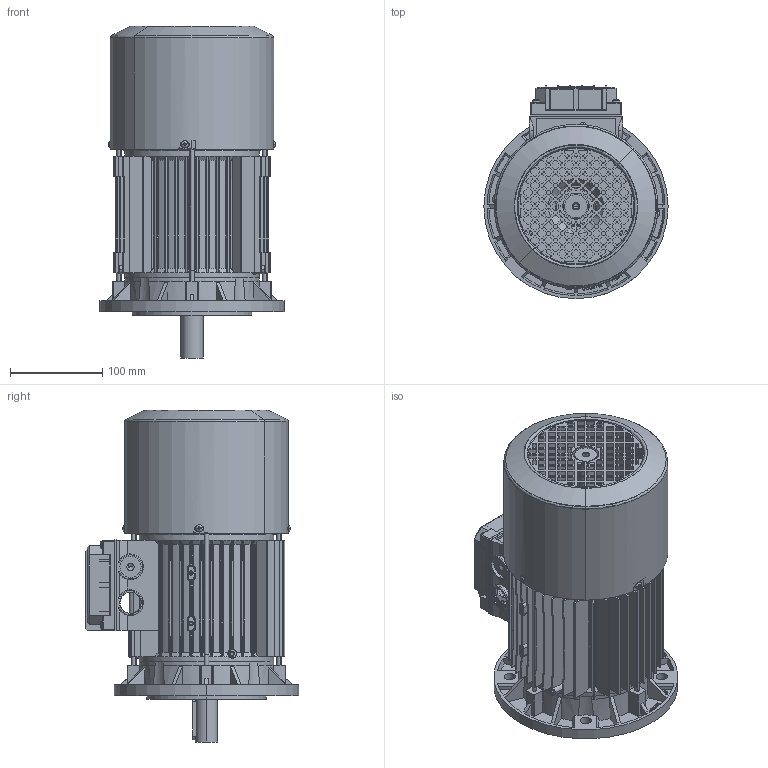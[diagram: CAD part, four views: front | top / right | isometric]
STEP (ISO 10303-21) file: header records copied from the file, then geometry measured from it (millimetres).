
FILE_DESCRIPTION (( 'STEP AP214' ), '1' );
FILE_NAME ('M14EB0011.STEP', '2019-09-06T07:38:56', ( '' ), ( '' ), 'SwSTEP 2.0', 'SolidWorks 2018', '' );
FILE_SCHEMA (( 'AUTOMOTIVE_DESIGN' ));
Length unit declared in the file: millimetre
Products named in the file (13): Carcassa 90 S B5; M14EB0011; Coperchio per Scatola Singola 90 - 100 - 112 con viti; Guarnizione Coperchio Semplice Scatola BA 90 100 112 - DDAL0094; Vite  a testa bombata M4x16; Coperchio per Scatola Singola 90 - 100 - 112; Vite testa rotonda M3; Tirante SM 90S; Chiavetta 90; Albero BM 90 S; Cuffia BM 90- DDAS0197; Scudo Lato Freno BM 90 P1; Scudo a flangia B5 Fi 200 BA-BM 90 - DDAA00195
Assembly tree (21 placements, depth 3):
  M14EB0011
    Carcassa 90 S B5
    Scudo a flangia B5 Fi 200 BA-BM 90 - DDAA00195
    Scudo Lato Freno BM 90 P1
    Cuffia BM 90- DDAS0197
    Albero BM 90 S
    Chiavetta 90
    Tirante SM 90S  x4
    Vite testa rotonda M3  x4
    Coperchio per Scatola Singola 90 - 100 - 112 con viti
      Coperchio per Scatola Singola 90 - 100 - 112
      Vite  a testa bombata M4x16  x4
      Guarnizione Coperchio Semplice Scatola BA 90 100 112 - DDAL0094
Bounding box: 200 x 231.5 x 360.5 mm (x, y, z)
Volume: 1315713.7 mm3; surface area: 766354.4 mm2
Topology: 24 solids, 24 shells, 3520 faces, 9578 edges, 6135 vertices
Faces by surface type: plane 1408, cylinder 1313, torus 302, cone 291, bspline 188, sphere 18
Entity records: 116352 total; most frequent: CARTESIAN_POINT 36531, ORIENTED_EDGE 17114, DIRECTION 15697, EDGE_CURVE 8557, AXIS2_PLACEMENT_3D 5728, VERTEX_POINT 5535, VECTOR 4241, LINE 4241
